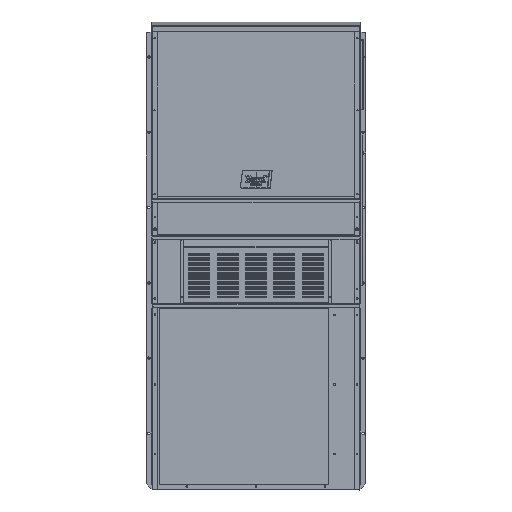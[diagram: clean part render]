
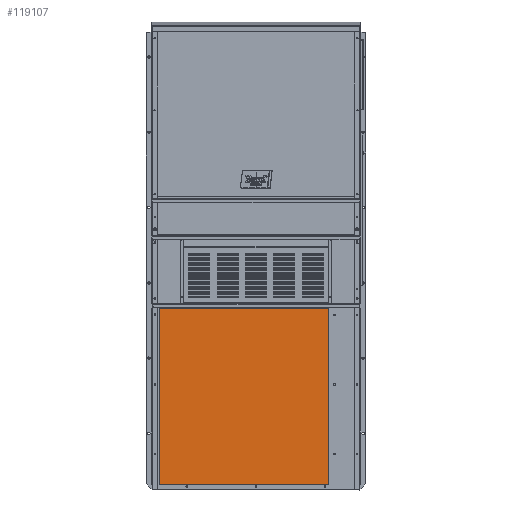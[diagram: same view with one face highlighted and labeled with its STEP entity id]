
A CAD part, top view. The second image highlights one B-rep face of the part: STEP entity #119107.
In plain terms, the highlighted planar face has unit normal (0, 0, 1).
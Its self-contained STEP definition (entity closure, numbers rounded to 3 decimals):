
#1324 = PLANE ( 'NONE',  #32569 ) ;
#5720 = VERTEX_POINT ( 'NONE', #107958 ) ;
#5843 = EDGE_LOOP ( 'NONE', ( #119268, #34872, #25251, #105028 ) ) ;
#18744 = LINE ( 'NONE', #117283, #76080 ) ;
#23533 = VERTEX_POINT ( 'NONE', #107666 ) ;
#25251 = ORIENTED_EDGE ( 'NONE', *, *, #112612, .F. ) ;
#28836 = VERTEX_POINT ( 'NONE', #140963 ) ;
#32569 = AXIS2_PLACEMENT_3D ( 'NONE', #97774, #120826, #52138 ) ;
#34872 = ORIENTED_EDGE ( 'NONE', *, *, #141166, .F. ) ;
#37098 = DIRECTION ( 'NONE',  ( 0., 1., 0. ) ) ;
#41970 = EDGE_CURVE ( 'NONE', #58051, #23533, #100918, .T. ) ;
#42545 = DIRECTION ( 'NONE',  ( 0., -1., 0. ) ) ;
#46222 = LINE ( 'NONE', #66066, #107153 ) ;
#52138 = DIRECTION ( 'NONE',  ( 0., -1., 0. ) ) ;
#56647 = CARTESIAN_POINT ( 'NONE',  ( -4.884, -45.615, 16.411 ) ) ;
#58051 = VERTEX_POINT ( 'NONE', #56647 ) ;
#66066 = CARTESIAN_POINT ( 'NONE',  ( -31.887, -73.684, 16.411 ) ) ;
#76080 = VECTOR ( 'NONE', #37098, 39.37 ) ;
#80144 = EDGE_CURVE ( 'NONE', #5720, #58051, #134231, .T. ) ;
#97774 = CARTESIAN_POINT ( 'NONE',  ( -4.884, -73.684, 16.411 ) ) ;
#98057 = DIRECTION ( 'NONE',  ( 1., 0., 0. ) ) ;
#100918 = LINE ( 'NONE', #111193, #127932 ) ;
#103666 = VECTOR ( 'NONE', #98057, 39.37 ) ;
#105028 = ORIENTED_EDGE ( 'NONE', *, *, #41970, .F. ) ;
#107153 = VECTOR ( 'NONE', #146356, 39.37 ) ;
#107666 = CARTESIAN_POINT ( 'NONE',  ( -4.884, -73.684, 16.411 ) ) ;
#107958 = CARTESIAN_POINT ( 'NONE',  ( -31.887, -45.615, 16.411 ) ) ;
#111193 = CARTESIAN_POINT ( 'NONE',  ( -4.884, -73.684, 16.411 ) ) ;
#112612 = EDGE_CURVE ( 'NONE', #23533, #28836, #46222, .T. ) ;
#117283 = CARTESIAN_POINT ( 'NONE',  ( -31.887, -73.684, 16.411 ) ) ;
#119107 = ADVANCED_FACE ( 'NONE', ( #124016 ), #1324, .T. ) ;
#119268 = ORIENTED_EDGE ( 'NONE', *, *, #80144, .F. ) ;
#120826 = DIRECTION ( 'NONE',  ( 0., 0., 1. ) ) ;
#124016 = FACE_OUTER_BOUND ( 'NONE', #5843, .T. ) ;
#127932 = VECTOR ( 'NONE', #42545, 39.37 ) ;
#134231 = LINE ( 'NONE', #143711, #103666 ) ;
#140963 = CARTESIAN_POINT ( 'NONE',  ( -31.887, -73.684, 16.411 ) ) ;
#141166 = EDGE_CURVE ( 'NONE', #28836, #5720, #18744, .T. ) ;
#143711 = CARTESIAN_POINT ( 'NONE',  ( -31.887, -45.615, 16.411 ) ) ;
#146356 = DIRECTION ( 'NONE',  ( -1., 0., 0. ) ) ;
